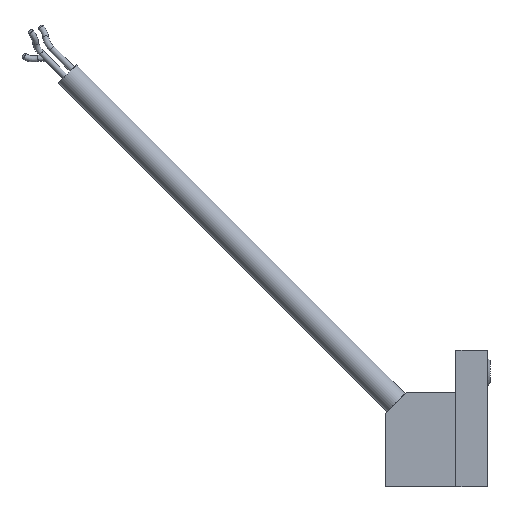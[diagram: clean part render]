
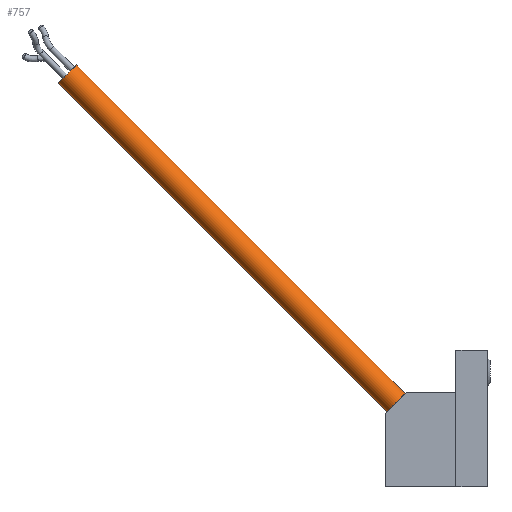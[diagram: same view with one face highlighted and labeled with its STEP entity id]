
A CAD part, left-side view. The second image highlights one B-rep face of the part: STEP entity #757.
In plain terms, the highlighted cylindrical face has radius 1.5 mm (diameter 3 mm), a full revolution.
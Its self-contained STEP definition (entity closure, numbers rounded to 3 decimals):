
#134=FACE_OUTER_BOUND('',#184,.T.);
#184=EDGE_LOOP('',(#596,#597,#598,#599));
#247=LINE('',#1248,#296);
#296=VECTOR('',#1020,1.5);
#321=CIRCLE('',#876,1.5);
#322=CIRCLE('',#878,1.5);
#376=VERTEX_POINT('',#1244);
#377=VERTEX_POINT('',#1247);
#458=EDGE_CURVE('',#376,#376,#321,.T.);
#459=EDGE_CURVE('',#376,#377,#247,.T.);
#460=EDGE_CURVE('',#377,#377,#322,.T.);
#596=ORIENTED_EDGE('',*,*,#458,.F.);
#597=ORIENTED_EDGE('',*,*,#459,.T.);
#598=ORIENTED_EDGE('',*,*,#460,.F.);
#599=ORIENTED_EDGE('',*,*,#459,.F.);
#738=CYLINDRICAL_SURFACE('',#877,1.5);
#757=ADVANCED_FACE('',(#134),#738,.T.);
#876=AXIS2_PLACEMENT_3D('',#1245,#1016,#1017);
#877=AXIS2_PLACEMENT_3D('',#1246,#1018,#1019);
#878=AXIS2_PLACEMENT_3D('',#1249,#1021,#1022);
#1016=DIRECTION('center_axis',(0.,0.,1.));
#1017=DIRECTION('ref_axis',(-1.,0.,0.));
#1018=DIRECTION('center_axis',(0.,0.,1.));
#1019=DIRECTION('ref_axis',(-1.,0.,0.));
#1020=DIRECTION('',(0.,0.,-1.));
#1021=DIRECTION('center_axis',(0.,0.,-1.));
#1022=DIRECTION('ref_axis',(-1.,0.,0.));
#1244=CARTESIAN_POINT('',(1.5,0.,16.));
#1245=CARTESIAN_POINT('Origin',(0.,0.,16.));
#1246=CARTESIAN_POINT('Origin',(0.,0.,0.));
#1247=CARTESIAN_POINT('',(1.5,0.,-38.5));
#1248=CARTESIAN_POINT('',(1.5,0.,0.));
#1249=CARTESIAN_POINT('Origin',(0.,0.,-38.5));
